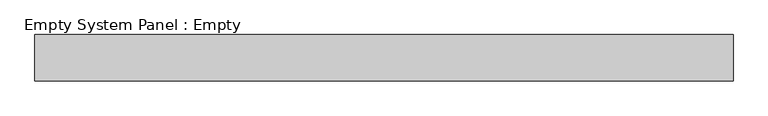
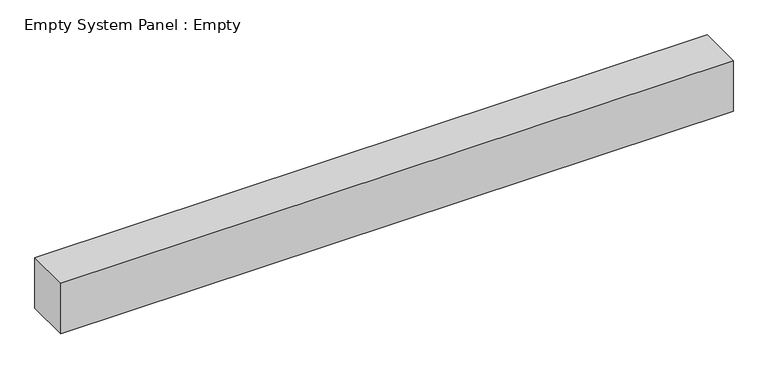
"""IFC4 building model written with IfcOpenShell, lengths in millimetres: plate geometry, Empty System Panel : Empty."""

from ifc_helpers import new_model, si_unit, origin, origin_with_axes, place, context, project, spatial, polyline, outline, extrude, source, transform, mapped, element, save


def empty_system_panel_empty_e0da4f88(model_context):
    return source(origin(), model_context, "Body", "SweptSolid", [
        extrude(outline(polyline([(750.0, -50.0), (-750.0, -50.0), (-750.0, 50.0), (750.0, 50.0), (750.0, -50.0)])), origin_with_axes(), (0.0, 0.0, 1.0), 119.0147186),
    ])


if __name__ == "__main__":
    model = new_model("IFC4")
    model_context = context("Model", 3, world=origin())
    ifc_project = project(units=[si_unit("LENGTHUNIT", "METRE", prefix="MILLI")], contexts=[model_context])
    site = spatial("IfcSite", under=ifc_project)
    building = spatial("IfcBuilding", under=site)
    placement = place(None, origin())
    empty_system_panel_empty_shape = empty_system_panel_empty_e0da4f88(model_context)
    element("IfcPlate", 1, ObjectType="Empty System Panel : Empty", at=placement, inside=building, context=model_context, shape_type="MappedRepresentation", body=[
        mapped(empty_system_panel_empty_shape, transform((0.0, 0.0, 0.0), x_axis=(1.0, 0.0, 0.0), y_axis=(0.0, 1.0, 0.0), z_axis=(0.0, 0.0, 1.0))),
    ])
    save(model, "model.ifc")
